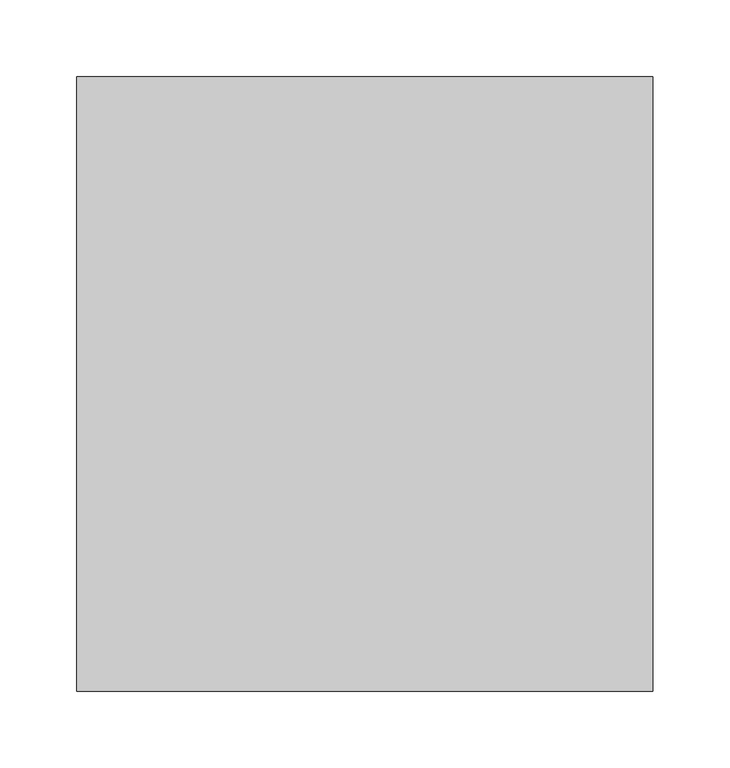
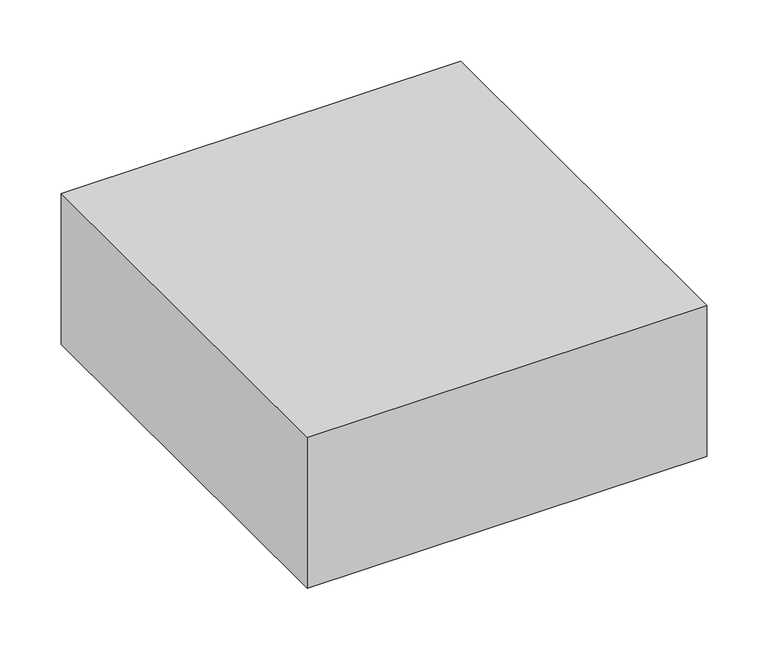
"""IFC4 building model written with IfcOpenShell, lengths in millimetres: column geometry, Column Encasement3 : Column Encasement."""

from ifc_helpers import new_model, si_unit, frame, origin, place, context, project, spatial, polyline, outline, extrude, source, transform, mapped, element, save


def column_52efbaac(model_context):
    return source(origin(), model_context, "Body", "SweptSolid", [
        extrude(outline(polyline([(-28981.9712085, 11251.8549517), (-28981.9712085, 10851.8549517), (-29356.9712085, 10851.8549517), (-29356.9712085, 11251.8549517), (-28981.9712085, 11251.8549517)])), frame((0.0, 0.0, -93.0), z_axis=(0.0, 0.0, 1.0), x_axis=(1.0, 0.0, 0.0)), (0.0, 0.0, 1.0), 150.0),
    ])


if __name__ == "__main__":
    model = new_model("IFC4")
    model_context = context("Model", 3, world=origin())
    ifc_project = project(units=[si_unit("LENGTHUNIT", "METRE", prefix="MILLI")], contexts=[model_context])
    site = spatial("IfcSite", under=ifc_project)
    building = spatial("IfcBuilding", under=site)
    placement = place(None, origin())
    column_shape = column_52efbaac(model_context)
    element("IfcColumn", 1, ObjectType="Column Encasement3 : Column Encasement", at=placement, inside=building, context=model_context, shape_type="MappedRepresentation", body=[
        mapped(column_shape, transform((0.0, 0.0, 0.0), x_axis=(1.0, 0.0, 0.0), y_axis=(0.0, 1.0, 0.0), z_axis=(0.0, 0.0, 1.0))),
    ])
    save(model, "model.ifc")
